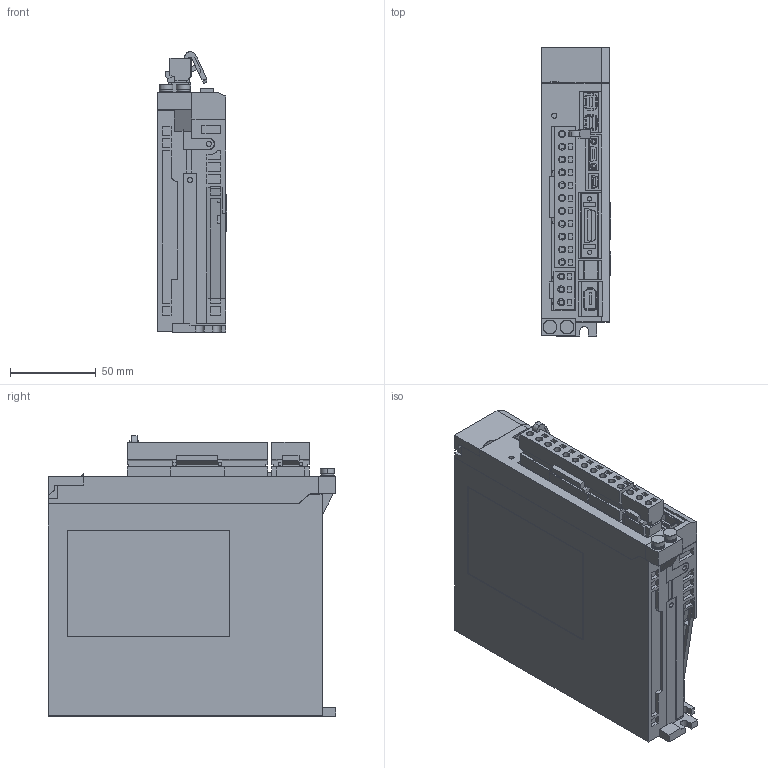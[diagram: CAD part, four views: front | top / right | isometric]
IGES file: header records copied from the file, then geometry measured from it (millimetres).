
Start section: SolidWorks IGES file using analytic representation for surfaces
Global section: file name: D:\YASKAWA\sgd7s_1r6a20a.IGS; native system: SolidWorks 2006 by SolidWorks Corporation; preprocessor: SolidWorks 2006 by SolidWorks Corporation; author: yamanouchi; date: 140306.132935; units: millimetre
Bounding box: 40.5 x 168 x 163.84 mm (x, y, z)
Surface area: 130445.4 mm2 (no closed solid volume)
Topology: 0 solids, 0 shells, 1776 faces, 13125 edges, 13125 vertices
Faces by surface type: bspline 1630, revolution 146
